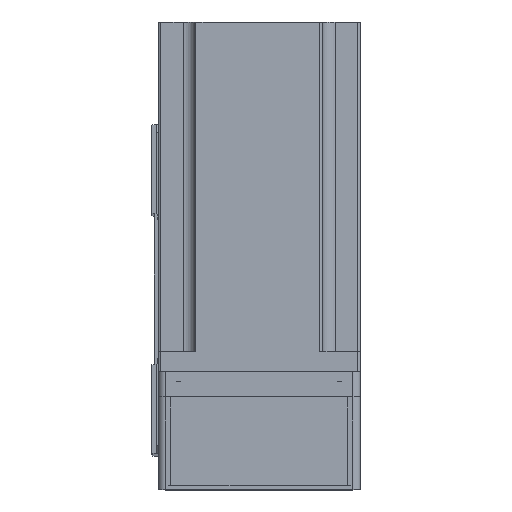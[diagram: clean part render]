
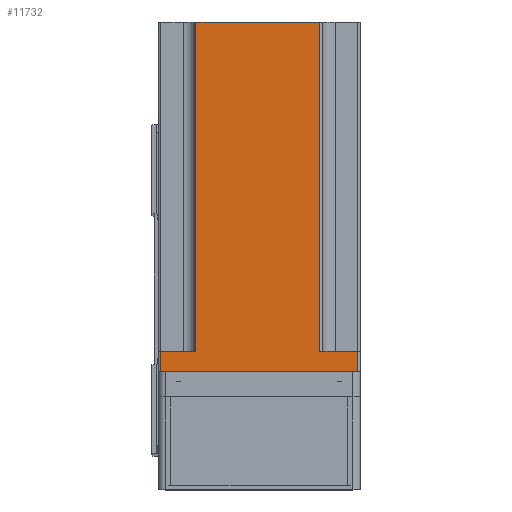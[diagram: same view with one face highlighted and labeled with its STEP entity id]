
A CAD part, top view. The second image highlights one B-rep face of the part: STEP entity #11732.
In plain terms, the highlighted planar face has unit normal (0, 0, 1) as drawn and (-1, 0, 0) by its records, which use the part's own axes.
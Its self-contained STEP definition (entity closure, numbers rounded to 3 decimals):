
#1455 = DIRECTION ( 'NONE',  ( 1., 0., 0. ) ) ;
#1524 = EDGE_CURVE ( 'NONE', #38435, #20172, #2308, .T. ) ;
#2308 = LINE ( 'NONE', #45811, #38875 ) ;
#3399 = EDGE_CURVE ( 'NONE', #28019, #34543, #34132, .T. ) ;
#3759 = DIRECTION ( 'NONE',  ( 0., 0., -1. ) ) ;
#3936 = VERTEX_POINT ( 'NONE', #45685 ) ;
#5872 = VECTOR ( 'NONE', #30578, 1000. ) ;
#6684 = DIRECTION ( 'NONE',  ( 0., 1., 0. ) ) ;
#7574 = VECTOR ( 'NONE', #6684, 1000. ) ;
#8413 = VECTOR ( 'NONE', #10297, 1000. ) ;
#10297 = DIRECTION ( 'NONE',  ( 0., 0., 1. ) ) ;
#10605 = CARTESIAN_POINT ( 'NONE',  ( -40., 25., 8. ) ) ;
#11732 = ADVANCED_FACE ( 'NONE', ( #29385 ), #26090, .F. ) ;
#12722 = VECTOR ( 'NONE', #3759, 1000. ) ;
#13324 = VERTEX_POINT ( 'NONE', #10605 ) ;
#13507 = CARTESIAN_POINT ( 'NONE',  ( -40., 39., 138.3 ) ) ;
#13574 = EDGE_CURVE ( 'NONE', #19339, #34543, #25094, .T. ) ;
#14777 = VERTEX_POINT ( 'NONE', #30781 ) ;
#14936 = EDGE_LOOP ( 'NONE', ( #16382, #25253, #26158, #15469, #29274, #40908, #42561, #26927 ) ) ;
#15469 = ORIENTED_EDGE ( 'NONE', *, *, #32596, .F. ) ;
#15688 = VECTOR ( 'NONE', #19205, 1000. ) ;
#16106 = EDGE_CURVE ( 'NONE', #28019, #20172, #44230, .T. ) ;
#16266 = LINE ( 'NONE', #42968, #36265 ) ;
#16382 = ORIENTED_EDGE ( 'NONE', *, *, #16106, .F. ) ;
#16931 = LINE ( 'NONE', #20678, #7574 ) ;
#17269 = EDGE_CURVE ( 'NONE', #14777, #38435, #16266, .T. ) ;
#17378 = CARTESIAN_POINT ( 'NONE',  ( -40., 25., 8. ) ) ;
#18581 = CARTESIAN_POINT ( 'NONE',  ( -40., -24., 138.3 ) ) ;
#18921 = EDGE_CURVE ( 'NONE', #3936, #14777, #32687, .T. ) ;
#19205 = DIRECTION ( 'NONE',  ( 0., -1., 0. ) ) ;
#19339 = VERTEX_POINT ( 'NONE', #28954 ) ;
#20172 = VERTEX_POINT ( 'NONE', #45155 ) ;
#20678 = CARTESIAN_POINT ( 'NONE',  ( -40., 40., 8. ) ) ;
#22602 = CARTESIAN_POINT ( 'NONE',  ( -40., -40., 138.3 ) ) ;
#25094 = LINE ( 'NONE', #29775, #15688 ) ;
#25253 = ORIENTED_EDGE ( 'NONE', *, *, #3399, .T. ) ;
#25278 = DIRECTION ( 'NONE',  ( 0., -1., 0. ) ) ;
#25722 = AXIS2_PLACEMENT_3D ( 'NONE', #22602, #1455, #26234 ) ;
#26090 = PLANE ( 'NONE',  #25722 ) ;
#26158 = ORIENTED_EDGE ( 'NONE', *, *, #13574, .F. ) ;
#26234 = DIRECTION ( 'NONE',  ( 0., 0., -1. ) ) ;
#26927 = ORIENTED_EDGE ( 'NONE', *, *, #1524, .T. ) ;
#27029 = CARTESIAN_POINT ( 'NONE',  ( -40., -24., 138.3 ) ) ;
#28019 = VERTEX_POINT ( 'NONE', #37761 ) ;
#28314 = LINE ( 'NONE', #17378, #8413 ) ;
#28954 = CARTESIAN_POINT ( 'NONE',  ( -40., 25., 138.3 ) ) ;
#29274 = ORIENTED_EDGE ( 'NONE', *, *, #36411, .T. ) ;
#29385 = FACE_OUTER_BOUND ( 'NONE', #14936, .T. ) ;
#29775 = CARTESIAN_POINT ( 'NONE',  ( -40., -40., 138.3 ) ) ;
#30578 = DIRECTION ( 'NONE',  ( 0., 0., 1. ) ) ;
#30781 = CARTESIAN_POINT ( 'NONE',  ( -40., 39., 0. ) ) ;
#31706 = DIRECTION ( 'NONE',  ( 0., 0., 1. ) ) ;
#32367 = DIRECTION ( 'NONE',  ( 0., -1., 0. ) ) ;
#32596 = EDGE_CURVE ( 'NONE', #13324, #19339, #28314, .T. ) ;
#32687 = LINE ( 'NONE', #13507, #12722 ) ;
#34132 = LINE ( 'NONE', #27029, #5872 ) ;
#34543 = VERTEX_POINT ( 'NONE', #18581 ) ;
#34803 = VECTOR ( 'NONE', #32367, 1000. ) ;
#36265 = VECTOR ( 'NONE', #25278, 1000. ) ;
#36411 = EDGE_CURVE ( 'NONE', #13324, #3936, #16931, .T. ) ;
#37761 = CARTESIAN_POINT ( 'NONE',  ( -40., -24., 8. ) ) ;
#38435 = VERTEX_POINT ( 'NONE', #43184 ) ;
#38875 = VECTOR ( 'NONE', #31706, 1000. ) ;
#40908 = ORIENTED_EDGE ( 'NONE', *, *, #18921, .T. ) ;
#42561 = ORIENTED_EDGE ( 'NONE', *, *, #17269, .T. ) ;
#42783 = CARTESIAN_POINT ( 'NONE',  ( -40., -40., 8. ) ) ;
#42968 = CARTESIAN_POINT ( 'NONE',  ( -40., -40., 0. ) ) ;
#43184 = CARTESIAN_POINT ( 'NONE',  ( -40., -39., 0. ) ) ;
#44230 = LINE ( 'NONE', #42783, #34803 ) ;
#45155 = CARTESIAN_POINT ( 'NONE',  ( -40., -39., 8. ) ) ;
#45685 = CARTESIAN_POINT ( 'NONE',  ( -40., 39., 8. ) ) ;
#45811 = CARTESIAN_POINT ( 'NONE',  ( -40., -39., 138.3 ) ) ;
